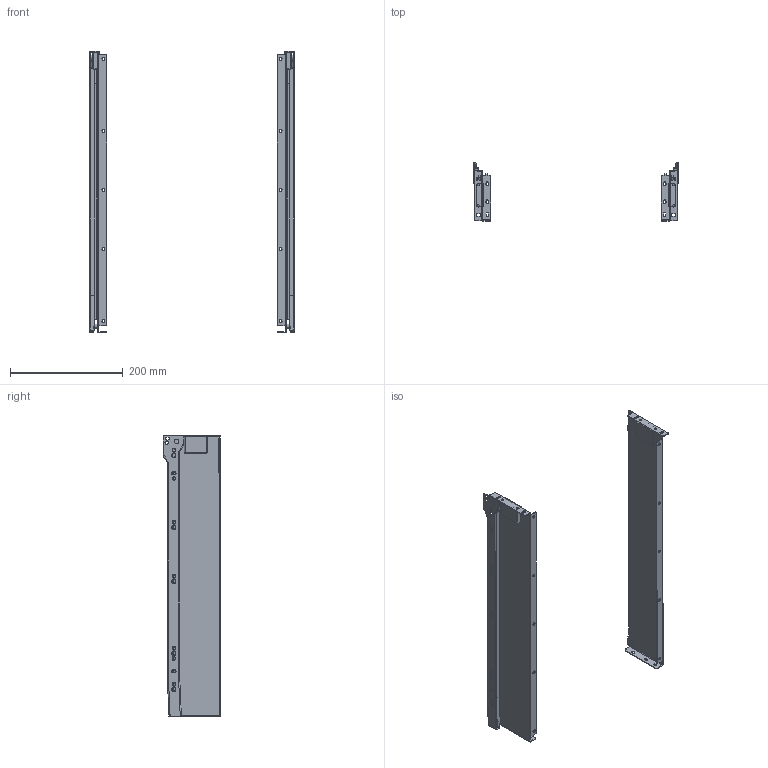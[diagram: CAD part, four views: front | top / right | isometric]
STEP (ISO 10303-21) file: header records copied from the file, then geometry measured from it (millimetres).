
FILE_DESCRIPTION(/* description */ (''),/* implementation_level */ '2;1');
FILE_NAME(/* name */ 'D:\$Workingspace\Designs\Katalog\Cadsoft\GTV Prwadnice II\MP (2)\MP\Metal box 3D\MP-086500-10.stp',/* time_stamp */ '2017-02-09T10:12:13+01:00',/* author */ ('tomaszw'),/* organization */ (''),/* preprocessor_version */ 'ST-DEVELOPER v16.1',/* originating_system */ 'Autodesk Inventor 2016',/* authorisation */ '');
FILE_SCHEMA (('CONFIG_CONTROL_DESIGN'));
Length unit declared in the file: millimetre
Products named in the file (5): MP-500-10_CL; MP-500-10_CR; MP-086500-10_DL; MP-086500-10_DR; MP
Assembly tree (4 placements, depth 2):
  MP
    MP-500-10_CL
    MP-500-10_CR
    MP-086500-10_DL
    MP-086500-10_DR
Bounding box: 364 x 102.57 x 501.16 mm (x, y, z)
Volume: 213297.3 mm3; surface area: 321885.8 mm2
Topology: 8 solids, 8 shells, 494 faces, 1276 edges, 810 vertices
Faces by surface type: plane 222, cylinder 206, cone 34, torus 20, sphere 12
Full cylindrical faces by diameter (mm): 4 x4, 4.8 x2, 5 x10, 5.5 x14, 6.5 x10, 7 x4, 8 x4, 18.5 x4
Entity records: 15559 total; most frequent: CARTESIAN_POINT 2717, DIRECTION 2624, ORIENTED_EDGE 2364, EDGE_CURVE 1182, AXIS2_PLACEMENT_3D 957, VERTEX_POINT 802, LINE 710, VECTOR 710
